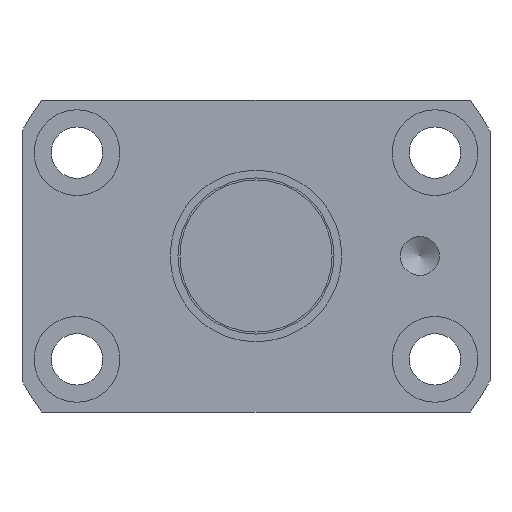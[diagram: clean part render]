
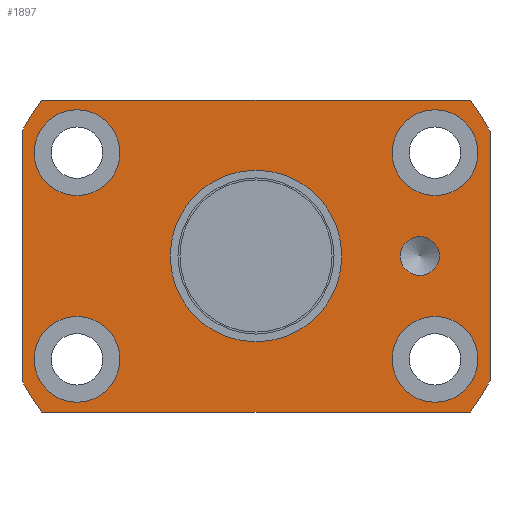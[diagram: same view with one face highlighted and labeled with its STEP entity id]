
A CAD part, left-side view. The second image highlights one B-rep face of the part: STEP entity #1897.
In plain terms, the highlighted planar face has unit normal (-1, 0, 0).
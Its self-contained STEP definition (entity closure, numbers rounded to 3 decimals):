
#3 = VECTOR ( 'NONE', #1116, 1000. ) ;
#5 = CARTESIAN_POINT ( 'NONE',  ( 0., -30., -20. ) ) ;
#20 = ORIENTED_EDGE ( 'NONE', *, *, #2367, .F. ) ;
#73 = EDGE_CURVE ( 'NONE', #609, #1612, #878, .T. ) ;
#101 = VERTEX_POINT ( 'NONE', #608 ) ;
#116 = CARTESIAN_POINT ( 'NONE',  ( 0., 0., 0. ) ) ;
#147 = DIRECTION ( 'NONE',  ( 0., 1., 0. ) ) ;
#201 = VERTEX_POINT ( 'NONE', #1962 ) ;
#233 = VECTOR ( 'NONE', #1010, 1000. ) ;
#240 = CARTESIAN_POINT ( 'NONE',  ( 0., 11., 0. ) ) ;
#270 = VERTEX_POINT ( 'NONE', #497 ) ;
#280 = EDGE_CURVE ( 'NONE', #1827, #1910, #2169, .T. ) ;
#396 = LINE ( 'NONE', #1435, #2563 ) ;
#417 = DIRECTION ( 'NONE',  ( -1., 0., 0. ) ) ;
#445 = ORIENTED_EDGE ( 'NONE', *, *, #73, .F. ) ;
#497 = CARTESIAN_POINT ( 'NONE',  ( 0., -17.45, -13.25 ) ) ;
#512 = CARTESIAN_POINT ( 'NONE',  ( 0., -21., 2.5 ) ) ;
#525 = CARTESIAN_POINT ( 'NONE',  ( 0., 28.45, 13.25 ) ) ;
#549 = AXIS2_PLACEMENT_3D ( 'NONE', #894, #1661, #147 ) ;
#582 = EDGE_CURVE ( 'NONE', #966, #1472, #3037, .T. ) ;
#607 = CARTESIAN_POINT ( 'NONE',  ( 0., 15.5, 0. ) ) ;
#608 = CARTESIAN_POINT ( 'NONE',  ( 0., -30., 16. ) ) ;
#609 = VERTEX_POINT ( 'NONE', #804 ) ;
#641 = PLANE ( 'NONE',  #2448 ) ;
#643 = EDGE_LOOP ( 'NONE', ( #2374 ) ) ;
#645 = VERTEX_POINT ( 'NONE', #3217 ) ;
#708 = DIRECTION ( 'NONE',  ( 0., 0., 1. ) ) ;
#776 = ORIENTED_EDGE ( 'NONE', *, *, #1280, .F. ) ;
#804 = CARTESIAN_POINT ( 'NONE',  ( 0., 30., -16. ) ) ;
#859 = FACE_OUTER_BOUND ( 'NONE', #955, .T. ) ;
#878 = LINE ( 'NONE', #1875, #3 ) ;
#879 = CIRCLE ( 'NONE', #1362, 34. ) ;
#884 = DIRECTION ( 'NONE',  ( 1., 0., 0. ) ) ;
#894 = CARTESIAN_POINT ( 'NONE',  ( 0., -22.95, 13.25 ) ) ;
#955 = EDGE_LOOP ( 'NONE', ( #20, #1227, #2401, #1677, #1371, #776, #445, #2402 ) ) ;
#966 = VERTEX_POINT ( 'NONE', #2229 ) ;
#977 = CARTESIAN_POINT ( 'NONE',  ( 0., 22.95, -13.25 ) ) ;
#988 = EDGE_CURVE ( 'NONE', #201, #609, #1150, .T. ) ;
#999 = CIRCLE ( 'NONE', #3160, 2.5 ) ;
#1010 = DIRECTION ( 'NONE',  ( 0., 1., 0. ) ) ;
#1019 = DIRECTION ( 'NONE',  ( 0., 1., 0. ) ) ;
#1021 = EDGE_CURVE ( 'NONE', #645, #645, #1848, .T. ) ;
#1045 = CIRCLE ( 'NONE', #2661, 11. ) ;
#1076 = CARTESIAN_POINT ( 'NONE',  ( 0., -30., -16. ) ) ;
#1116 = DIRECTION ( 'NONE',  ( 0., 0., 1. ) ) ;
#1136 = CARTESIAN_POINT ( 'NONE',  ( 0., 22.95, 13.25 ) ) ;
#1148 = FACE_BOUND ( 'NONE', #2818, .T. ) ;
#1150 = CIRCLE ( 'NONE', #2652, 34. ) ;
#1172 = DIRECTION ( 'NONE',  ( 0., 1., 0. ) ) ;
#1219 = DIRECTION ( 'NONE',  ( 1., 0., 0. ) ) ;
#1227 = ORIENTED_EDGE ( 'NONE', *, *, #280, .F. ) ;
#1280 = EDGE_CURVE ( 'NONE', #1612, #966, #879, .T. ) ;
#1281 = DIRECTION ( 'NONE',  ( 1., 0., 0. ) ) ;
#1309 = DIRECTION ( 'NONE',  ( 1., 0., 0. ) ) ;
#1320 = CIRCLE ( 'NONE', #1434, 5.5 ) ;
#1357 = ORIENTED_EDGE ( 'NONE', *, *, #2304, .T. ) ;
#1362 = AXIS2_PLACEMENT_3D ( 'NONE', #2581, #2302, #1019 ) ;
#1371 = ORIENTED_EDGE ( 'NONE', *, *, #582, .F. ) ;
#1434 = AXIS2_PLACEMENT_3D ( 'NONE', #2065, #1309, #1804 ) ;
#1435 = CARTESIAN_POINT ( 'NONE',  ( 0., -30., 20. ) ) ;
#1470 = CARTESIAN_POINT ( 'NONE',  ( 0., 0., 0. ) ) ;
#1472 = VERTEX_POINT ( 'NONE', #3202 ) ;
#1561 = CARTESIAN_POINT ( 'NONE',  ( 0., 0., 0. ) ) ;
#1612 = VERTEX_POINT ( 'NONE', #3208 ) ;
#1661 = DIRECTION ( 'NONE',  ( 1., 0., 0. ) ) ;
#1677 = ORIENTED_EDGE ( 'NONE', *, *, #3318, .F. ) ;
#1696 = FACE_BOUND ( 'NONE', #3146, .T. ) ;
#1705 = ORIENTED_EDGE ( 'NONE', *, *, #3287, .T. ) ;
#1713 = CIRCLE ( 'NONE', #3215, 5.5 ) ;
#1748 = DIRECTION ( 'NONE',  ( 0., 1., 0. ) ) ;
#1767 = CIRCLE ( 'NONE', #2835, 34. ) ;
#1795 = ORIENTED_EDGE ( 'NONE', *, *, #1021, .T. ) ;
#1802 = EDGE_LOOP ( 'NONE', ( #1705 ) ) ;
#1804 = DIRECTION ( 'NONE',  ( 0., 1., 0. ) ) ;
#1827 = VERTEX_POINT ( 'NONE', #1076 ) ;
#1848 = CIRCLE ( 'NONE', #3092, 5.5 ) ;
#1875 = CARTESIAN_POINT ( 'NONE',  ( 0., 30., -20. ) ) ;
#1881 = EDGE_CURVE ( 'NONE', #2571, #2571, #2015, .T. ) ;
#1887 = DIRECTION ( 'NONE',  ( 0., 0., 1. ) ) ;
#1897 = ADVANCED_FACE ( 'NONE', ( #2678, #1908, #1696, #3210, #1148, #859, #1943 ), #641, .T. ) ;
#1908 = FACE_BOUND ( 'NONE', #2202, .T. ) ;
#1910 = VERTEX_POINT ( 'NONE', #2963 ) ;
#1943 = FACE_BOUND ( 'NONE', #3122, .T. ) ;
#1962 = CARTESIAN_POINT ( 'NONE',  ( 0., 27.495, -20. ) ) ;
#1974 = DIRECTION ( 'NONE',  ( -1., 0., 0. ) ) ;
#2012 = VECTOR ( 'NONE', #2082, 1000. ) ;
#2015 = CIRCLE ( 'NONE', #549, 5.5 ) ;
#2065 = CARTESIAN_POINT ( 'NONE',  ( 0., -22.95, -13.25 ) ) ;
#2082 = DIRECTION ( 'NONE',  ( 0., -1., 0. ) ) ;
#2118 = EDGE_CURVE ( 'NONE', #2884, #2884, #999, .T. ) ;
#2169 = CIRCLE ( 'NONE', #2383, 34. ) ;
#2202 = EDGE_LOOP ( 'NONE', ( #1795 ) ) ;
#2212 = DIRECTION ( 'NONE',  ( 1., 0., 0. ) ) ;
#2229 = CARTESIAN_POINT ( 'NONE',  ( 0., 27.495, 20. ) ) ;
#2302 = DIRECTION ( 'NONE',  ( 1., 0., 0. ) ) ;
#2304 = EDGE_CURVE ( 'NONE', #270, #270, #1320, .T. ) ;
#2306 = VERTEX_POINT ( 'NONE', #525 ) ;
#2307 = DIRECTION ( 'NONE',  ( 0., 1., 0. ) ) ;
#2351 = DIRECTION ( 'NONE',  ( 0., 1., 0. ) ) ;
#2367 = EDGE_CURVE ( 'NONE', #1910, #201, #2546, .T. ) ;
#2374 = ORIENTED_EDGE ( 'NONE', *, *, #2118, .F. ) ;
#2377 = DIRECTION ( 'NONE',  ( 1., 0., 0. ) ) ;
#2383 = AXIS2_PLACEMENT_3D ( 'NONE', #1561, #1281, #2307 ) ;
#2401 = ORIENTED_EDGE ( 'NONE', *, *, #2677, .F. ) ;
#2402 = ORIENTED_EDGE ( 'NONE', *, *, #988, .F. ) ;
#2427 = DIRECTION ( 'NONE',  ( 0., 1., 0. ) ) ;
#2448 = AXIS2_PLACEMENT_3D ( 'NONE', #607, #417, #1887 ) ;
#2451 = DIRECTION ( 'NONE',  ( 0., 1., 0. ) ) ;
#2458 = ORIENTED_EDGE ( 'NONE', *, *, #2535, .T. ) ;
#2479 = CARTESIAN_POINT ( 'NONE',  ( 0., -21., 0. ) ) ;
#2489 = DIRECTION ( 'NONE',  ( 1., 0., 0. ) ) ;
#2535 = EDGE_CURVE ( 'NONE', #2559, #2559, #1045, .T. ) ;
#2546 = LINE ( 'NONE', #5, #233 ) ;
#2559 = VERTEX_POINT ( 'NONE', #240 ) ;
#2563 = VECTOR ( 'NONE', #2762, 1000. ) ;
#2571 = VERTEX_POINT ( 'NONE', #3038 ) ;
#2581 = CARTESIAN_POINT ( 'NONE',  ( 0., 0., 0. ) ) ;
#2652 = AXIS2_PLACEMENT_3D ( 'NONE', #1470, #2212, #2451 ) ;
#2661 = AXIS2_PLACEMENT_3D ( 'NONE', #2920, #2377, #2427 ) ;
#2677 = EDGE_CURVE ( 'NONE', #101, #1827, #396, .T. ) ;
#2678 = FACE_BOUND ( 'NONE', #643, .T. ) ;
#2762 = DIRECTION ( 'NONE',  ( 0., 0., -1. ) ) ;
#2818 = EDGE_LOOP ( 'NONE', ( #1357 ) ) ;
#2835 = AXIS2_PLACEMENT_3D ( 'NONE', #116, #2489, #1172 ) ;
#2850 = CARTESIAN_POINT ( 'NONE',  ( 0., 30., 20. ) ) ;
#2884 = VERTEX_POINT ( 'NONE', #512 ) ;
#2920 = CARTESIAN_POINT ( 'NONE',  ( 0., 0., 0. ) ) ;
#2963 = CARTESIAN_POINT ( 'NONE',  ( 0., -27.495, -20. ) ) ;
#3037 = LINE ( 'NONE', #2850, #2012 ) ;
#3038 = CARTESIAN_POINT ( 'NONE',  ( 0., -17.45, 13.25 ) ) ;
#3067 = ORIENTED_EDGE ( 'NONE', *, *, #1881, .T. ) ;
#3092 = AXIS2_PLACEMENT_3D ( 'NONE', #977, #1219, #1748 ) ;
#3122 = EDGE_LOOP ( 'NONE', ( #2458 ) ) ;
#3146 = EDGE_LOOP ( 'NONE', ( #3067 ) ) ;
#3160 = AXIS2_PLACEMENT_3D ( 'NONE', #2479, #1974, #708 ) ;
#3202 = CARTESIAN_POINT ( 'NONE',  ( 0., -27.495, 20. ) ) ;
#3208 = CARTESIAN_POINT ( 'NONE',  ( 0., 30., 16. ) ) ;
#3210 = FACE_BOUND ( 'NONE', #1802, .T. ) ;
#3215 = AXIS2_PLACEMENT_3D ( 'NONE', #1136, #884, #2351 ) ;
#3217 = CARTESIAN_POINT ( 'NONE',  ( 0., 28.45, -13.25 ) ) ;
#3287 = EDGE_CURVE ( 'NONE', #2306, #2306, #1713, .T. ) ;
#3318 = EDGE_CURVE ( 'NONE', #1472, #101, #1767, .T. ) ;
